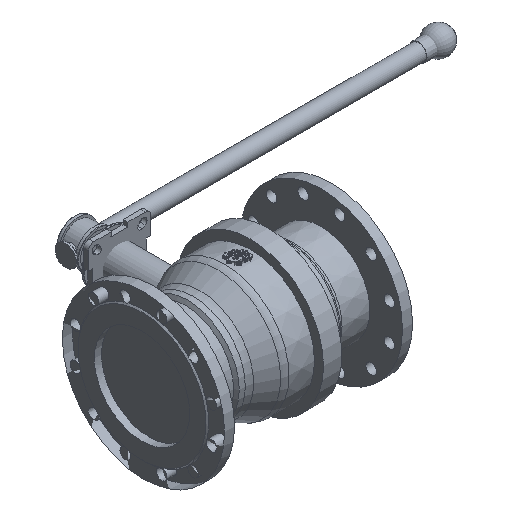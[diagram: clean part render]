
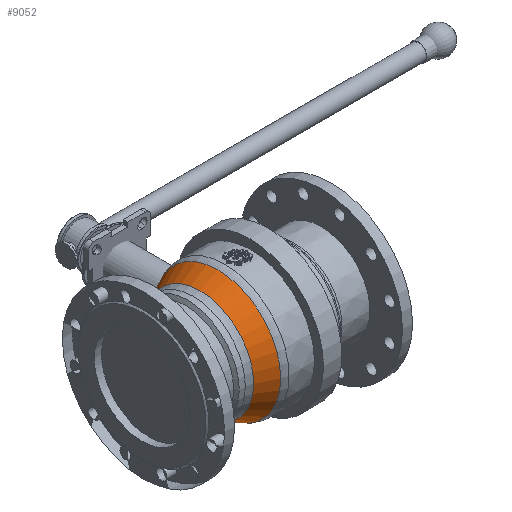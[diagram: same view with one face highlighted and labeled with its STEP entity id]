
A CAD part, isometric view. The second image highlights one B-rep face of the part: STEP entity #9052.
In plain terms, the highlighted conical face has half-angle 26.717 degrees and reference radius 121.985 mm.
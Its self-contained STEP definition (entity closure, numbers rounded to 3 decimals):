
#9052=ADVANCED_FACE('',(#16431,#16433),#16435,.T.);
#16431=FACE_BOUND('',#16432,.T.);
#16432=EDGE_LOOP('',(#22490,#22491));
#16433=FACE_BOUND('',#16434,.T.);
#16434=EDGE_LOOP('',(#22492,#22493));
#16435=CONICAL_SURFACE('',#16436,121.985,0.466);
#16436=AXIS2_PLACEMENT_3D('',#16437,#16438,#16439);
#16437=CARTESIAN_POINT('',(173.28,182.673,0.));
#16438=DIRECTION('',(1.,0.,0.));
#16439=DIRECTION('',(0.,-1.,0.));
#22490=ORIENTED_EDGE('',*,*,#25637,.F.);
#22491=ORIENTED_EDGE('',*,*,#25638,.F.);
#22492=ORIENTED_EDGE('',*,*,#25636,.T.);
#22493=ORIENTED_EDGE('',*,*,#25635,.T.);
#25635=EDGE_CURVE('',#30479,#30480,#30481,.T.);
#25636=EDGE_CURVE('',#30480,#30479,#30482,.T.);
#25637=EDGE_CURVE('',#30483,#30484,#30485,.T.);
#25638=EDGE_CURVE('',#30484,#30483,#30486,.T.);
#30479=VERTEX_POINT('',#50556);
#30480=VERTEX_POINT('',#50557);
#30481=CIRCLE('',#50558,112.508);
#30482=CIRCLE('',#50562,112.508);
#30483=VERTEX_POINT('',#50566);
#30484=VERTEX_POINT('',#50567);
#30485=CIRCLE('',#50568,131.461);
#30486=CIRCLE('',#50572,131.461);
#50556=CARTESIAN_POINT('',(154.452,295.181,0.));
#50557=CARTESIAN_POINT('',(154.453,70.165,0.));
#50558=AXIS2_PLACEMENT_3D('',#50559,#50560,#50561);
#50559=CARTESIAN_POINT('',(154.453,182.673,0.));
#50560=DIRECTION('',(1.,0.,0.));
#50561=DIRECTION('',(0.,1.,0.));
#50562=AXIS2_PLACEMENT_3D('',#50563,#50564,#50565);
#50563=CARTESIAN_POINT('',(154.453,182.673,0.));
#50564=DIRECTION('',(1.,0.,0.));
#50565=DIRECTION('',(0.,-1.,0.));
#50566=CARTESIAN_POINT('',(192.108,314.134,0.));
#50567=CARTESIAN_POINT('',(192.109,51.212,0.));
#50568=AXIS2_PLACEMENT_3D('',#50569,#50570,#50571);
#50569=CARTESIAN_POINT('',(192.108,182.673,0.));
#50570=DIRECTION('',(1.,0.,0.));
#50571=DIRECTION('',(0.,1.,0.));
#50572=AXIS2_PLACEMENT_3D('',#50573,#50574,#50575);
#50573=CARTESIAN_POINT('',(192.108,182.673,0.));
#50574=DIRECTION('',(1.,0.,0.));
#50575=DIRECTION('',(0.,-1.,0.));
